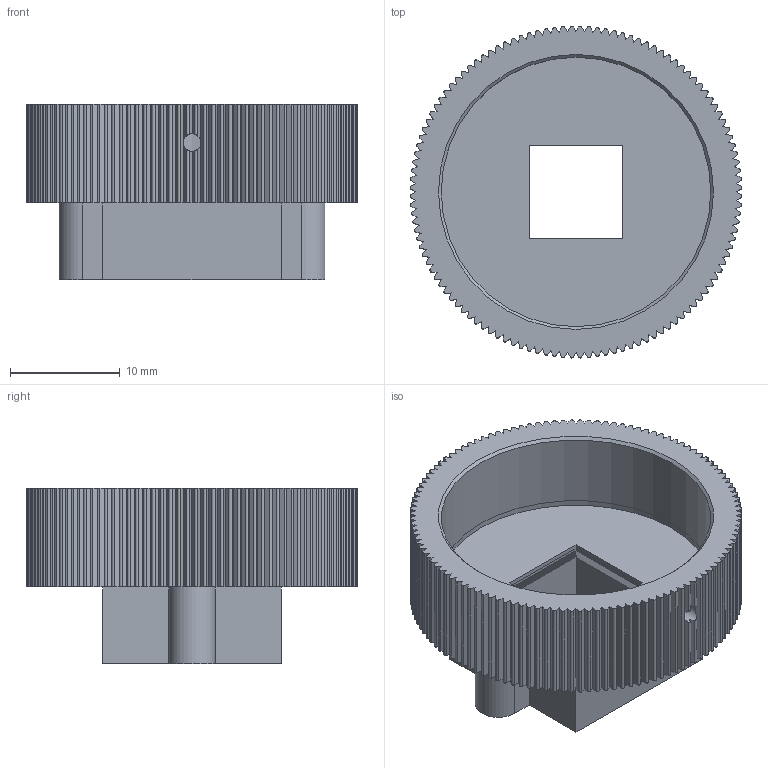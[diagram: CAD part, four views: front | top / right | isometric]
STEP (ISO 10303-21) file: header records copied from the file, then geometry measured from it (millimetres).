
FILE_DESCRIPTION( ( 'M12 LENS HOLDER' ), '1' );
FILE_NAME( 'D:/DropBox/Personal/M12 Lenses/TechData/SolidModels/PT-LH016CSP.par/PT-LH016CSP.stp', 'Unknown', ( 'Tharaka Goonetilleke' ), ( 'M12 Lenses Inc.' ), 'PSStep 13.0', 'Unknown', ' ' );
FILE_SCHEMA( ( 'AUTOMOTIVE_DESIGN { 1 0 10303 214 1 1 1 1 }' ) );
Length unit declared in the file: millimetre
Products named in the file (1): 1
Bounding box: 30.21 x 30.21 x 16 mm (x, y, z)
Volume: 3479.6 mm3; surface area: 4268.2 mm2
Topology: 1 solids, 1 shells, 408 faces, 1199 edges, 797 vertices
Faces by surface type: plane 278, cylinder 129, cone 1
Full cylindrical faces by diameter (mm): 1.6 x3, 24.541 x2
Entity records: 16801 total; most frequent: CARTESIAN_POINT 2441, ORIENTED_EDGE 2380, DIRECTION 2265, EDGE_CURVE 1190, LINE 923, VECTOR 923, VERTEX_POINT 795, AXIS2_PLACEMENT_3D 671
